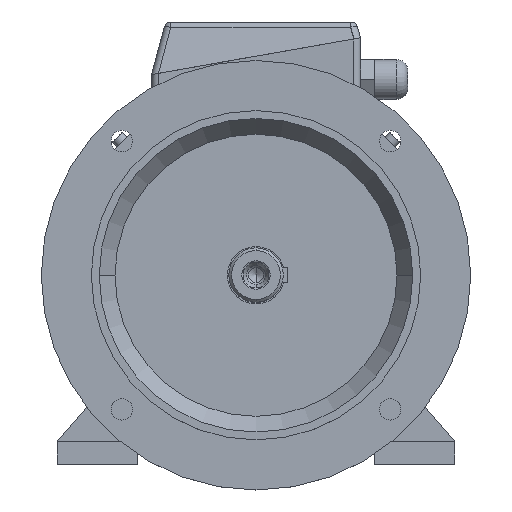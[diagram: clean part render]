
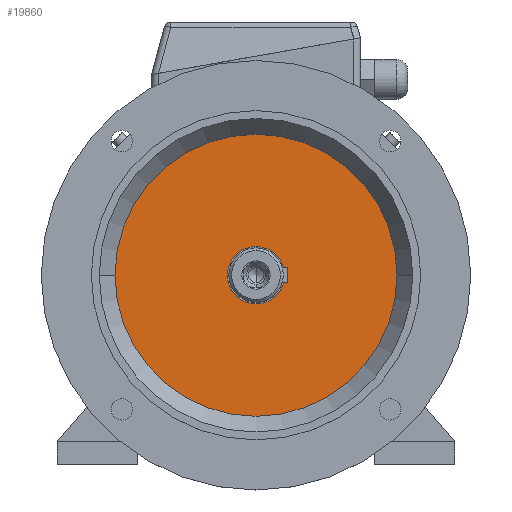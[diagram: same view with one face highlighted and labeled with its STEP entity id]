
A CAD part, top view. The second image highlights one B-rep face of the part: STEP entity #19860.
In plain terms, the highlighted planar face has unit normal (0, 0, 1).
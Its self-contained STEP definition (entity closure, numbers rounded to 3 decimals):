
#17343 = CIRCLE ( 'NONE', #17344, 98.5 ) ;
#17344 = AXIS2_PLACEMENT_3D ( 'NONE', #17345, #17346, #17347 ) ;
#17345 = CARTESIAN_POINT ( 'NONE',  ( 0., 0., 47. ) ) ;
#17346 = DIRECTION ( 'NONE',  ( 0., 0., -1. ) ) ;
#17347 = DIRECTION ( 'NONE',  ( -1., 0., 0. ) ) ;
#1607 = EDGE_CURVE ( 'NONE', #9896, #10160, #17343, .T. ) ;
#18340 = ORIENTED_EDGE ( 'NONE', *, *, #1607, .F. ) ;
#18952 = ORIENTED_EDGE ( 'NONE', *, *, #10423, .F. ) ;
#19567 = EDGE_LOOP ( 'NONE', ( #18952, #18340 ) ) ;
#19860 = ADVANCED_FACE ( 'NONE', ( #14847 ), #14848, .T. ) ;
#4176 = CARTESIAN_POINT ( 'NONE',  ( -98.5, 0., 47. ) ) ;
#4368 = CARTESIAN_POINT ( 'NONE',  ( 98.5, 0., 47. ) ) ;
#4533 = CIRCLE ( 'NONE', #4534, 98.5 ) ;
#4534 = AXIS2_PLACEMENT_3D ( 'NONE', #4535, #4536, #4537 ) ;
#4535 = CARTESIAN_POINT ( 'NONE',  ( 0., 0., 47. ) ) ;
#4536 = DIRECTION ( 'NONE',  ( 0., 0., -1. ) ) ;
#4537 = DIRECTION ( 'NONE',  ( -1., 0., 0. ) ) ;
#9896 = VERTEX_POINT ( 'NONE', #4176 ) ;
#10160 = VERTEX_POINT ( 'NONE', #4368 ) ;
#10423 = EDGE_CURVE ( 'NONE', #10160, #9896, #4533, .T. ) ;
#14847 = FACE_OUTER_BOUND ( 'NONE', #19567, .T. ) ;
#14848 = PLANE ( 'NONE',  #14849 ) ;
#14849 = AXIS2_PLACEMENT_3D ( 'NONE', #14850, #14851, #14852 ) ;
#14850 = CARTESIAN_POINT ( 'NONE',  ( 0., 98.5, 47. ) ) ;
#14851 = DIRECTION ( 'NONE',  ( 0., 0., 1. ) ) ;
#14852 = DIRECTION ( 'NONE',  ( 1., 0., 0. ) ) ;
